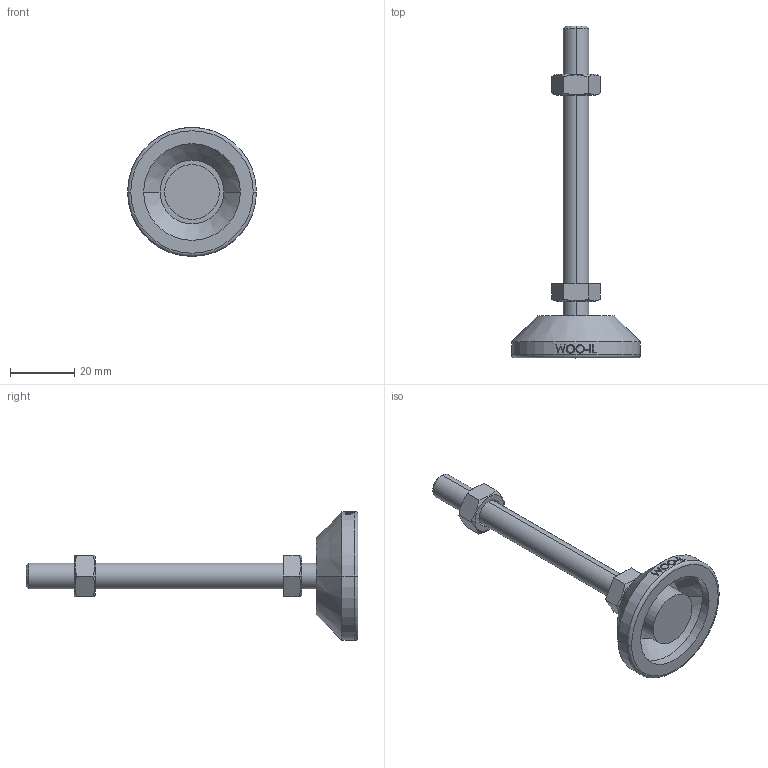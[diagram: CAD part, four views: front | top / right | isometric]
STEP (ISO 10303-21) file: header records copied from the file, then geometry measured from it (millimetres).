
FILE_DESCRIPTION (( 'STEP AP214' ), '1' );
FILE_NAME ('PL40-M8-80.step', '2021-03-05T05:04:39', ( '' ), ( '' ), 'SwSTEP 2.0', 'SolidWorks 2019', '' );
FILE_SCHEMA (( 'AUTOMOTIVE_DESIGN' ));
Length unit declared in the file: millimetre
Products named in the file (2): PL40-M8-80
Bounding box: 40 x 103 x 40 mm (x, y, z)
Volume: 16342.7 mm3; surface area: 7839.5 mm2
Topology: 3 solids, 3 shells, 104 faces, 246 edges, 158 vertices
Faces by surface type: plane 48, cylinder 20, cone 16, bspline 16, sphere 2, torus 2
Entity records: 4220 total; most frequent: CARTESIAN_POINT 1906, ORIENTED_EDGE 482, DIRECTION 427, EDGE_CURVE 241, AXIS2_PLACEMENT_3D 162, VERTEX_POINT 155, EDGE_LOOP 118, ADVANCED_FACE 104
